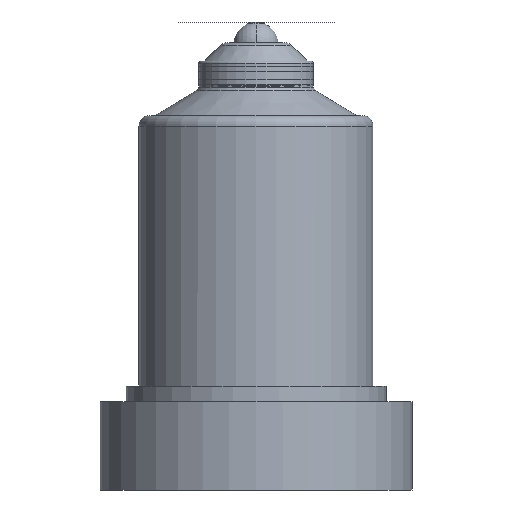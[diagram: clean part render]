
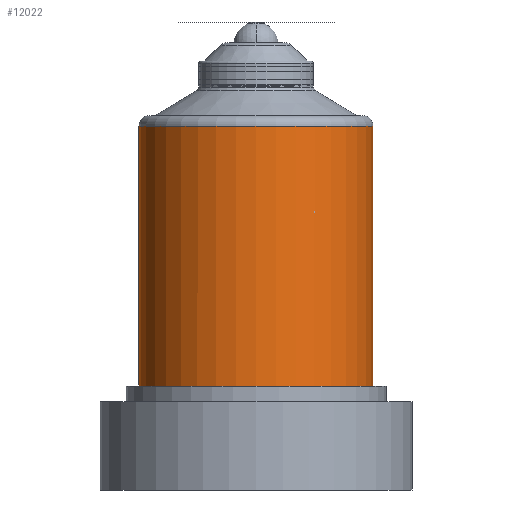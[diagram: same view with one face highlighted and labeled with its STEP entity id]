
A CAD part, front view. The second image highlights one B-rep face of the part: STEP entity #12022.
In plain terms, the highlighted cylindrical face has radius 22.5 mm (diameter 45 mm), a partial arc.
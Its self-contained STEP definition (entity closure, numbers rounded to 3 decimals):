
#191 = ORIENTED_EDGE ( 'NONE', *, *, #17441, .T. ) ;
#781 = DIRECTION ( 'NONE',  ( -1., 0., 0. ) ) ;
#1088 = EDGE_CURVE ( 'NONE', #2591, #2066, #17181, .T. ) ;
#1140 = EDGE_CURVE ( 'NONE', #9115, #2066, #2857, .T. ) ;
#1144 = ORIENTED_EDGE ( 'NONE', *, *, #1140, .T. ) ;
#2066 = VERTEX_POINT ( 'NONE', #16295 ) ;
#2329 = CARTESIAN_POINT ( 'NONE',  ( 0., 0., 35. ) ) ;
#2591 = VERTEX_POINT ( 'NONE', #5638 ) ;
#2857 = CIRCLE ( 'NONE', #12578, 22.5 ) ;
#3668 = CARTESIAN_POINT ( 'NONE',  ( 0., 0., 85. ) ) ;
#4844 = AXIS2_PLACEMENT_3D ( 'NONE', #3668, #6601, #6733 ) ;
#5273 = EDGE_CURVE ( 'NONE', #10098, #9115, #15302, .T. ) ;
#5638 = CARTESIAN_POINT ( 'NONE',  ( 22.5, 0., 85. ) ) ;
#6347 = CARTESIAN_POINT ( 'NONE',  ( -22.5, 0., 85. ) ) ;
#6601 = DIRECTION ( 'NONE',  ( 0., 0., -1. ) ) ;
#6733 = DIRECTION ( 'NONE',  ( -1., 0., 0. ) ) ;
#7609 = ORIENTED_EDGE ( 'NONE', *, *, #5273, .T. ) ;
#8886 = FACE_OUTER_BOUND ( 'NONE', #18148, .T. ) ;
#9115 = VERTEX_POINT ( 'NONE', #13969 ) ;
#9635 = DIRECTION ( 'NONE',  ( 0., 0., -1. ) ) ;
#10098 = VERTEX_POINT ( 'NONE', #6347 ) ;
#11457 = VECTOR ( 'NONE', #17189, 1000. ) ;
#12022 = ADVANCED_FACE ( 'NONE', ( #8886 ), #15479, .T. ) ;
#12433 = DIRECTION ( 'NONE',  ( 1., 0., 0. ) ) ;
#12578 = AXIS2_PLACEMENT_3D ( 'NONE', #2329, #13951, #12433 ) ;
#13122 = ORIENTED_EDGE ( 'NONE', *, *, #1088, .F. ) ;
#13311 = VECTOR ( 'NONE', #16529, 1000. ) ;
#13951 = DIRECTION ( 'NONE',  ( 0., 0., 1. ) ) ;
#13969 = CARTESIAN_POINT ( 'NONE',  ( -22.5, 0., 35. ) ) ;
#15302 = LINE ( 'NONE', #15803, #11457 ) ;
#15479 = CYLINDRICAL_SURFACE ( 'NONE', #16760, 22.5 ) ;
#15606 = CIRCLE ( 'NONE', #4844, 22.5 ) ;
#15803 = CARTESIAN_POINT ( 'NONE',  ( -22.5, 0., 78. ) ) ;
#16151 = CARTESIAN_POINT ( 'NONE',  ( 22.5, 0., 78. ) ) ;
#16295 = CARTESIAN_POINT ( 'NONE',  ( 22.5, 0., 35. ) ) ;
#16529 = DIRECTION ( 'NONE',  ( 0., 0., -1. ) ) ;
#16760 = AXIS2_PLACEMENT_3D ( 'NONE', #18206, #9635, #781 ) ;
#17181 = LINE ( 'NONE', #16151, #13311 ) ;
#17189 = DIRECTION ( 'NONE',  ( 0., 0., -1. ) ) ;
#17441 = EDGE_CURVE ( 'NONE', #2591, #10098, #15606, .T. ) ;
#18148 = EDGE_LOOP ( 'NONE', ( #13122, #191, #7609, #1144 ) ) ;
#18206 = CARTESIAN_POINT ( 'NONE',  ( 0., 0., 78. ) ) ;
